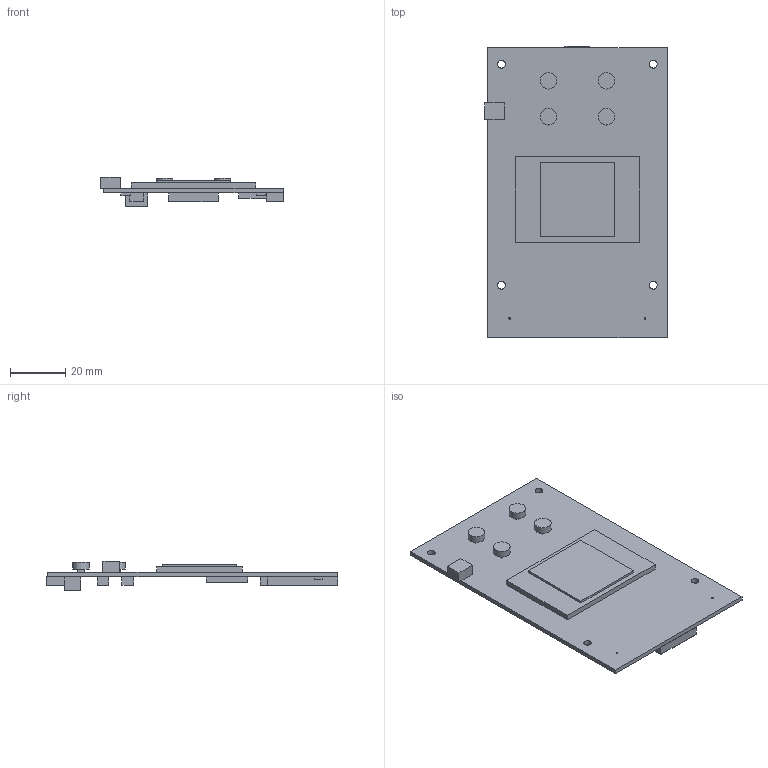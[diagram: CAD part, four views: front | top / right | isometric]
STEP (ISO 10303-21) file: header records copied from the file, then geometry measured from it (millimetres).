
FILE_DESCRIPTION(('Open CASCADE Model'),'2;1');
FILE_NAME('Open CASCADE Shape Model','2026-09-29T17:57:22',('Author'),( 'Open CASCADE'),'Open CASCADE STEP processor 7.9','Open CASCADE 7.9' ,'Unknown');
FILE_SCHEMA(('AUTOMOTIVE_DESIGN { 1 0 10303 214 1 1 1 1 }'));
Length unit declared in the file: millimetre
Products named in the file (23): Quipus_A1_PLACEMENT_STUDY_NOT_FOR_FABRICATION; PCB_65x105x1p6; MIC_1_ENVELOPE; MIC_2_ENVELOPE; ESP32_MODULE_ENVELOPE; ANTENNA_REGION_INDICATOR; LCD_MODULE_ENVELOPE; DISPLAY_GLASS_INDICATOR; BUTTON_START_BODY; BUTTON_START_CAP; BUTTON_STOP_BODY; BUTTON_STOP_CAP; BUTTON_UP_BODY; BUTTON_UP_CAP; BUTTON_DOWN_BODY; BUTTON_DOWN_CAP; POWER_BUTTON_ENVELOPE; USB_C_ENVELOPE; MICRO_SD_ENVELOPE; MIC_EXPANSION_CONNECTOR_ENVELOPE; SPEAKER_CONNECTOR_ENVELOPE; BATTERY_CONNECTOR_ENVELOPE; NTC_3PIN_CONNECTOR_ENVELOPE
Assembly tree (22 placements, depth 2):
  Quipus_A1_PLACEMENT_STUDY_NOT_FOR_FABRICATION
    PCB_65x105x1p6
    MIC_1_ENVELOPE
    MIC_2_ENVELOPE
    ESP32_MODULE_ENVELOPE
    ANTENNA_REGION_INDICATOR
    LCD_MODULE_ENVELOPE
    DISPLAY_GLASS_INDICATOR
    BUTTON_START_BODY
    BUTTON_START_CAP
    BUTTON_STOP_BODY
    BUTTON_STOP_CAP
    BUTTON_UP_BODY
    BUTTON_UP_CAP
    BUTTON_DOWN_BODY
    BUTTON_DOWN_CAP
    POWER_BUTTON_ENVELOPE
    USB_C_ENVELOPE
    MICRO_SD_ENVELOPE
    MIC_EXPANSION_CONNECTOR_ENVELOPE
    SPEAKER_CONNECTOR_ENVELOPE
    BATTERY_CONNECTOR_ENVELOPE
    NTC_3PIN_CONNECTOR_ENVELOPE
Bounding box: 66 x 105.5 x 10.6 mm (x, y, z)
Volume: 17357.7 mm3; surface area: 22418.8 mm2
Topology: 22 solids, 22 shells, 126 faces, 246 edges, 164 vertices
Faces by surface type: plane 116, cylinder 10
Full cylindrical faces by diameter (mm): 0.6 x2, 2.8 x4, 6 x4
Entity records: 6944 total; most frequent: DIRECTION 1056, CARTESIAN_POINT 1051, LINE 698, VECTOR 698, ORIENTED_EDGE 492, PCURVE 492, DEFINITIONAL_REPRESENTATION 492, EDGE_CURVE 246
